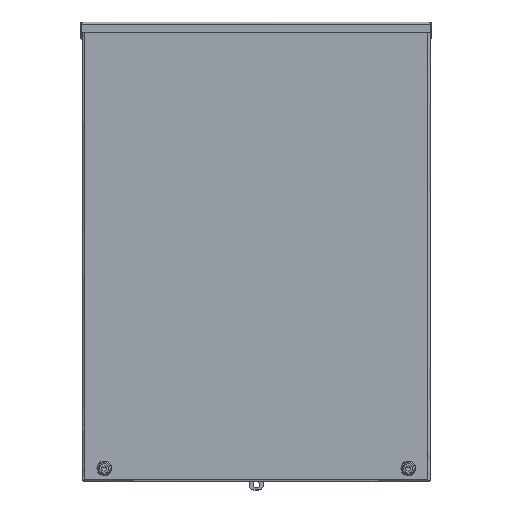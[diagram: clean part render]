
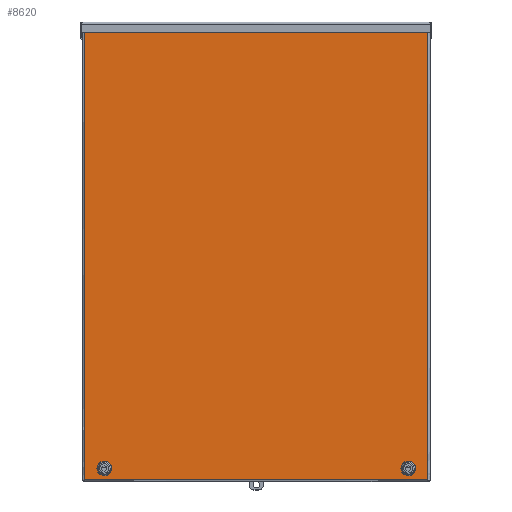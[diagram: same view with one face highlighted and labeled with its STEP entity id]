
A CAD part, top view. The second image highlights one B-rep face of the part: STEP entity #8620.
In plain terms, the highlighted free-form (B-spline) face has degree [1, 1] with [2, 2] control points.
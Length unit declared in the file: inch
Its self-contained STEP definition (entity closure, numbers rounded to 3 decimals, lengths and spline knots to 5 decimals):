
#6698=CARTESIAN_POINT('V78',(1.48018,-0.055,
   23.37));
#6699=VERTEX_POINT('V78',#6698);
#6713=CARTESIAN_POINT('E124',(1.48018,-0.055,
   23.37));
#6714=CARTESIAN_POINT('E124',(1.48018,-0.055,
   22.70285));
#6715=CARTESIAN_POINT('E124',(0.90241,-0.055,
   23.03643));
#6716=CARTESIAN_POINT('E124',(0.32464,-0.055,
   23.37));
#6717=CARTESIAN_POINT('E124',(0.90241,-0.055,
   23.70357));
#6718=CARTESIAN_POINT('E124',(1.48018,-0.055,
   24.03715));
#6719=CARTESIAN_POINT('E124',(1.48018,-0.055,
   23.37));
#6727=(BOUNDED_CURVE()B_SPLINE_CURVE(2,(#6713,#6714,#6715,#6716,
   #6717,#6718,#6719),.CIRCULAR_ARC.,.T.,.U.)
   B_SPLINE_CURVE_WITH_KNOTS((3,2,2,3),(0.0,64.0058,
   128.01159,192.01739),.UNSPECIFIED.)CURVE()
   GEOMETRIC_REPRESENTATION_ITEM()RATIONAL_B_SPLINE_CURVE((1.0,
   0.5,1.0,0.5,1.0,0.5,1.0)
   )REPRESENTATION_ITEM('E124'));
#6728=EDGE_CURVE('E124',#6699,#6699,#6727,.T.);
#7193=CARTESIAN_POINT('V68',(17.48018,-0.055,
   23.37));
#7194=VERTEX_POINT('V68',#7193);
#7208=CARTESIAN_POINT('E107',(17.48018,-0.055,
   23.37));
#7209=CARTESIAN_POINT('E107',(17.48018,-0.055,
   22.70285));
#7210=CARTESIAN_POINT('E107',(16.90241,-0.055,
   23.03643));
#7211=CARTESIAN_POINT('E107',(16.32464,-0.055,
   23.37));
#7212=CARTESIAN_POINT('E107',(16.90241,-0.055,
   23.70357));
#7213=CARTESIAN_POINT('E107',(17.48018,-0.055,
   24.03715));
#7214=CARTESIAN_POINT('E107',(17.48018,-0.055,
   23.37));
#7222=(BOUNDED_CURVE()B_SPLINE_CURVE(2,(#7208,#7209,#7210,#7211,
   #7212,#7213,#7214),.CIRCULAR_ARC.,.T.,.U.)
   B_SPLINE_CURVE_WITH_KNOTS((3,2,2,3),(0.0,64.0058,
   128.01159,192.01739),.UNSPECIFIED.)CURVE()
   GEOMETRIC_REPRESENTATION_ITEM()RATIONAL_B_SPLINE_CURVE((1.0,
   0.5,1.0,0.5,1.0,0.5,1.0)
   )REPRESENTATION_ITEM('E107'));
#7223=EDGE_CURVE('E107',#7194,#7194,#7222,.T.);
#7948=CARTESIAN_POINT('V26',(0.06,-0.055,
   23.945));
#7949=VERTEX_POINT('V26',#7948);
#7986=CARTESIAN_POINT('V39',(0.06,-0.055,
   0.));
#7987=VERTEX_POINT('V39',#7986);
#7988=CARTESIAN_POINT('E89',(0.06,-0.055,
   0.));
#7989=CARTESIAN_POINT('E89',(0.06,-0.055,
   23.945));
#7990=QUASI_UNIFORM_CURVE('E89',1,(#7988,#7989),.POLYLINE_FORM.,.F.,
   .U.);
#7991=EDGE_CURVE('E89',#7987,#7949,#7990,.T.);
#8033=CARTESIAN_POINT('V40',(18.13,-0.055,
   0.));
#8034=VERTEX_POINT('V40',#8033);
#8048=CARTESIAN_POINT('E50',(0.06,-0.055,
   0.0));
#8049=CARTESIAN_POINT('E50',(18.13,-0.055,
   0.0));
#8050=QUASI_UNIFORM_CURVE('E50',1,(#8048,#8049),.POLYLINE_FORM.,.F.,
   .U.);
#8051=EDGE_CURVE('E50',#7987,#8034,#8050,.T.);
#8089=CARTESIAN_POINT('V6',(18.13,-0.055,
   23.945));
#8090=VERTEX_POINT('V6',#8089);
#8134=CARTESIAN_POINT('E90',(18.13,-0.055,
   23.945));
#8135=CARTESIAN_POINT('E90',(18.13,-0.055,
   0.));
#8136=QUASI_UNIFORM_CURVE('E90',1,(#8134,#8135),.POLYLINE_FORM.,.F.,
   .U.);
#8137=EDGE_CURVE('E90',#8090,#8034,#8136,.T.);
#8590=CARTESIAN_POINT('E82',(0.06,-0.055,
   23.945));
#8591=CARTESIAN_POINT('E82',(18.13,-0.055,
   23.945));
#8592=QUASI_UNIFORM_CURVE('E82',1,(#8590,#8591),.POLYLINE_FORM.,.F.,
   .U.);
#8593=EDGE_CURVE('E82',#7949,#8090,#8592,.T.);
#8603=CARTESIAN_POINT('F52',(18.13394,-0.055,
   -0.00394));
#8604=CARTESIAN_POINT('F52',(18.13394,-0.055,
   23.94894));
#8605=CARTESIAN_POINT('F52',(0.05606,-0.055,
   -0.00394));
#8606=CARTESIAN_POINT('F52',(0.05606,-0.055,
   23.94894));
#8607=B_SPLINE_SURFACE_WITH_KNOTS('F52',1,1,((#8603,#8605),(#8604,
   #8606)),.PLANE_SURF.,.F.,.F.,.U.,(2,2),(2,2),(0.0,
   1.32498),(0.0,1.0),.UNSPECIFIED.);
#8608=ORIENTED_EDGE('E82',*,*,#8593,.F.);
#8609=ORIENTED_EDGE('E89',*,*,#7991,.F.);
#8610=ORIENTED_EDGE('E50',*,*,#8051,.T.);
#8611=ORIENTED_EDGE('E90',*,*,#8137,.F.);
#8612=EDGE_LOOP('F52',(#8608,#8609,#8610,#8611));
#8613=FACE_OUTER_BOUND('F52',#8612,.T.);
#8614=ORIENTED_EDGE('E107',*,*,#7223,.T.);
#8615=EDGE_LOOP('F52',(#8614));
#8616=FACE_BOUND('F52',#8615,.T.);
#8617=ORIENTED_EDGE('E124',*,*,#6728,.T.);
#8618=EDGE_LOOP('F52',(#8617));
#8619=FACE_BOUND('F52',#8618,.T.);
#8620=ADVANCED_FACE('F52',(#8613,#8616,#8619),#8607,.T.);
